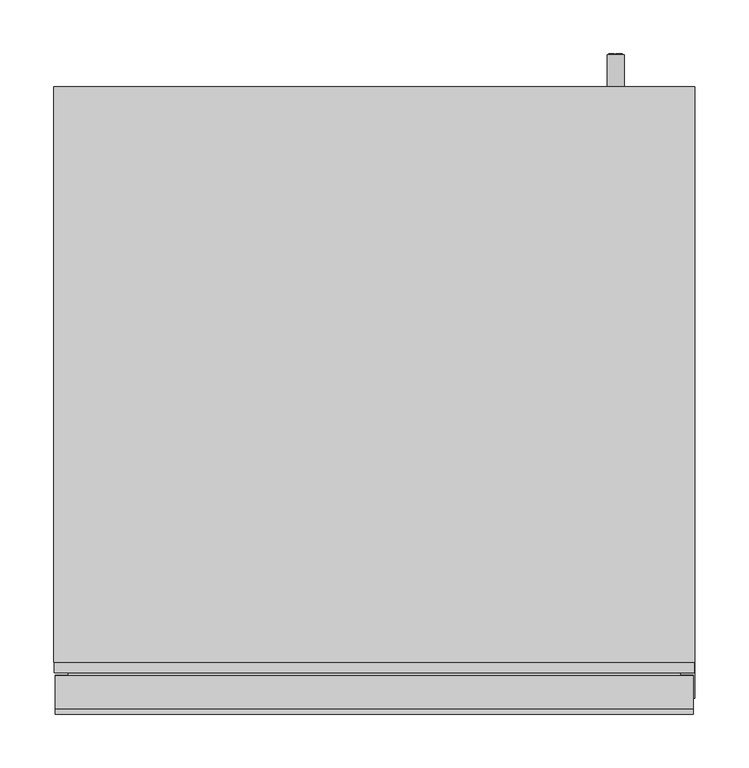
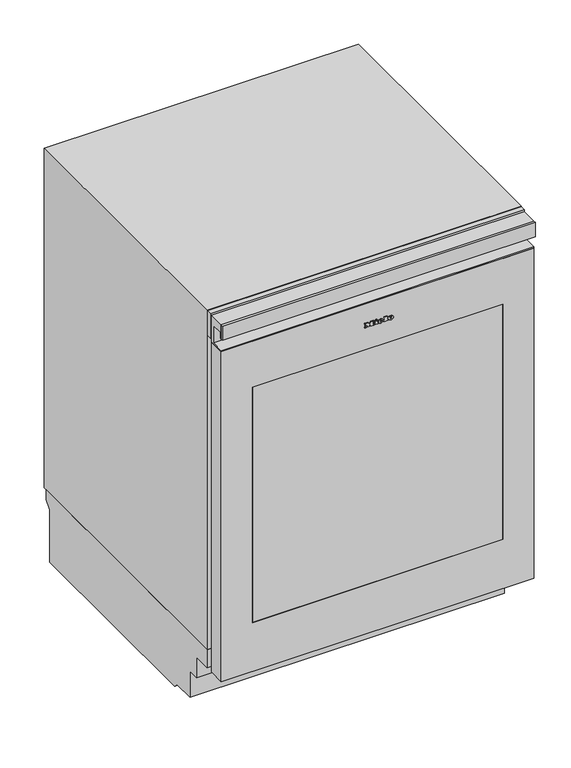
"""IFC4 building model written with IfcOpenShell, lengths in millimetres: proxy geometry, 12519500_EU1_KWTUS7055F_OBSW : 39705510_EU1_12519500_KWTUS7055F_OBSW."""

from ifc_helpers import new_model, si_unit, point, frame, frame_2d, origin, origin_with_axes, place, context, project, spatial, polyline, circle_curve, ellipse_curve, trimmed, segment, composite_curve, outline, extrude, faceted_brep, source, transform, mapped, element, save
from ifc_brep_helpers import plane_surface, cylinder_surface, revolved_surface, extruded_surface, advanced_brep


def specialty_equipment_1f316508(model_context):
    return source(origin(), model_context, "Body", "SolidModel", [
        extrude(outline(polyline([(722.339, -25.038), (722.339, -23.949), (716.318, -23.949), (716.318, -25.038), (714.806, -25.038), (714.806, -21.078), (716.318, -21.078), (716.318, -22.158), (720.1401247, -22.158), (714.806, -18.135), (720.2462223, -14.094), (716.318, -14.094), (716.318, -15.201), (714.806, -15.201), (714.806, -8.019), (716.318, -8.019), (716.318, -9.162), (722.339, -9.162), (722.339, -8.019), (723.806, -8.019), (723.806, -13.5), (720.431, -16.128), (723.806, -18.765), (723.806, -25.038), (722.339, -25.038)])), frame((0.0, -1.0, 0.0), z_axis=(0.0, 1.0, 0.0), x_axis=(0.0, 0.0, 1.0)), (0.0, 0.0, 1.0), 1.0),
        extrude(outline(polyline([(722.339, 11.484), (722.339, 12.564), (716.318, 12.564), (716.318, 11.484), (714.806, 11.484), (714.806, 18.783), (716.318, 18.783), (716.318, 17.676), (723.806, 17.676), (723.806, 11.484), (722.339, 11.484)])), frame((0.0, -1.0, 0.0), z_axis=(0.0, 1.0, 0.0), x_axis=(0.0, 0.0, 1.0)), (0.0, 0.0, 1.0), 1.0),
        extrude(outline(polyline([(723.275, -4.878), (721.817, -4.194), (723.239, -1.143), (724.697, -1.818), (723.275, -4.878)])), frame((0.0, -1.0, 0.0), z_axis=(0.0, 1.0, 0.0), x_axis=(0.0, 0.0, 1.0)), (0.0, 0.0, 1.0), 1.0),
        extrude(outline(polyline([(721.619, -7.101), (720.008, -7.101), (720.008, -6.03), (716.318, -6.03), (716.318, -7.101), (714.806, -7.101), (714.806, 0.0), (716.318, 0.0), (716.318, -1.044), (721.619, -1.044), (721.619, -7.101)])), frame((0.0, -1.0, 0.0), z_axis=(0.0, 1.0, 0.0), x_axis=(0.0, 0.0, 1.0)), (0.0, 0.0, 1.0), 1.0),
        advanced_brep(
        [(4.959, -1.0, 716.939), (4.959, -1.0, 717.848), (10.98, -1.0, 717.848), (0.504, -1.0, 717.848), (2.979, -1.0, 714.806), (10.827, -1.0, 716.939), (8.109, -1.0, 716.939), (5.967, -1.0, 715.931), (4.959, -1.0, 719.0), (4.959, -1.0, 719.981), (6.498, -1.0, 719.981), (6.498, -1.0, 719.0), (4.959, 0.0, 716.939), (5.967, 0.0, 715.931), (8.109, 0.0, 716.939), (10.827, 0.0, 716.939), (2.979, 0.0, 714.806), (0.504, 0.0, 717.848), (10.98, 0.0, 717.848), (4.959, 0.0, 717.848), (4.959, 0.0, 719.0), (6.498, 0.0, 719.0), (6.498, 0.0, 719.981), (4.959, 0.0, 719.981)],
        [
            (0, 1),
            (1, 2),
            (2, 3, ellipse_curve(frame((5.742, -1.0, 717.848), z_axis=(0.0, -1.0, 0.0), x_axis=(-1.0, 0.0, 0.0)), 5.238, 4.329)),
            (3, 4, circle_curve(frame((3.9870491, -1.0, 718.154), z_axis=(0.0, -1.0, 0.0), x_axis=(0.0, 0.0, -1.0)), 3.4964649)),
            (4, 5, circle_curve(frame((5.6371428, -1.0, 720.53), z_axis=(0.0, -1.0, 0.0), x_axis=(0.0, 0.0, -1.0)), 6.3110933)),
            (5, 6),
            (6, 7, circle_curve(frame((6.4069412, -1.0, 717.776), z_axis=(0.0, 1.0, 0.0), x_axis=(0.0, 0.0, -1.0)), 1.896727)),
            (7, 0, circle_curve(frame((5.967, -1.0, 716.939), z_axis=(0.0, 1.0, 0.0), x_axis=(0.0, 0.0, -1.0)), 1.008)),
            (8, 9),
            (9, 10, circle_curve(frame((5.7285, -1.0, 719.981), z_axis=(0.0, 1.0, 0.0), x_axis=(0.0, 0.0, -1.0)), 0.7695)),
            (10, 11),
            (11, 8),
            (12, 13, circle_curve(frame((5.967, 0.0, 716.939), z_axis=(0.0, -1.0, 0.0), x_axis=(0.0, 0.0, -1.0)), 1.008)),
            (13, 14, circle_curve(frame((6.4069412, 0.0, 717.776), z_axis=(0.0, -1.0, 0.0), x_axis=(0.0, 0.0, -1.0)), 1.896727)),
            (14, 15),
            (15, 16, circle_curve(frame((5.6371428, 0.0, 720.53), z_axis=(0.0, 1.0, 0.0), x_axis=(0.0, 0.0, -1.0)), 6.3110933)),
            (16, 17, circle_curve(frame((3.9870491, 0.0, 718.154), z_axis=(0.0, 1.0, 0.0), x_axis=(0.0, 0.0, -1.0)), 3.4964649)),
            (17, 18, ellipse_curve(frame((5.742, 0.0, 717.848), z_axis=(0.0, 1.0, 0.0), x_axis=(-1.0, 0.0, 0.0)), 5.238, 4.329)),
            (18, 19),
            (19, 12),
            (20, 21),
            (21, 22),
            (22, 23, circle_curve(frame((5.7285, 0.0, 719.981), z_axis=(0.0, -1.0, 0.0), x_axis=(0.0, 0.0, -1.0)), 0.7695)),
            (23, 20),
            (0, 12),
            (19, 1),
            (18, 2),
            (5, 15),
            (14, 6),
            (17, 3),
            (13, 7),
            (16, 4),
            (8, 20),
            (23, 9),
            (22, 10),
            (21, 11),
        ],
        [
            plane_surface(frame((4.959, -1.0, 717.848), z_axis=(0.0, -1.0, 0.0), x_axis=(0.0, 0.0, 1.0))),
            plane_surface(frame((4.959, 0.0, 717.848), z_axis=(0.0, 1.0, 0.0), x_axis=(0.0, 0.0, -1.0))),
            plane_surface(frame((4.959, -1.0, 716.939), z_axis=(1.0, 0.0, 0.0), x_axis=(0.0, 1.0, 0.0))),
            plane_surface(frame((4.959, -1.0, 717.848), z_axis=(0.0, 0.0, -1.0), x_axis=(0.0, 1.0, 0.0))),
            plane_surface(frame((10.827, -1.0, 716.939), z_axis=(0.0, 0.0, 1.0), x_axis=(0.0, 1.0, 0.0))),
            extruded_surface(trimmed(ellipse_curve(frame((5.742, 1.0, 717.848), z_axis=(0.0, -1.0, 0.0), x_axis=(-1.0, 0.0, 0.0)), 5.238, 4.329), [point((10.98, 1.0, 717.848))], [point((0.504, 1.0, 717.848))], True, "CARTESIAN"), (0.0, -1.0, 0.0), 1.0),
            revolved_surface(polyline([(6.4069412, 0.0, 715.8792729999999), (6.4069412, -1.0, 715.8792729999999)]), (6.4069412, 0.0, 717.776), (0.0, 1.0, 0.0)),
            revolved_surface(polyline([(5.967, 0.0, 715.9309999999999), (5.967, -1.0, 715.9309999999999)]), (5.967, 0.0, 716.939), (0.0, 1.0, 0.0)),
            cylinder_surface(frame((3.9870491, 0.0, 718.154), z_axis=(0.0, -1.0, 0.0), x_axis=(0.0, 0.0, -1.0)), 3.4964649),
            cylinder_surface(frame((5.6371428, 0.0, 720.53), z_axis=(0.0, -1.0, 0.0), x_axis=(0.0, 0.0, -1.0)), 6.3110933),
            plane_surface(frame((4.959, -1.0, 719.0), z_axis=(1.0, 0.0, 0.0), x_axis=(0.0, 1.0, 0.0))),
            revolved_surface(polyline([(5.7285, 0.0, 719.2115), (5.7285, -1.0, 719.2115)]), (5.7285, 0.0, 719.981), (0.0, 1.0, 0.0)),
            plane_surface(frame((6.498, -1.0, 719.981), z_axis=(-1.0, 0.0, 0.0), x_axis=(0.0, 1.0, 0.0))),
            plane_surface(frame((6.498, -1.0, 719.0), z_axis=(0.0, 0.0, 1.0), x_axis=(0.0, 1.0, 0.0))),
        ],
        [
            (0, [[1, 2, 3, 4, 5, 6, 7, 8], [9, 10, 11, 12]]),
            (1, [[13, 14, 15, 16, 17, 18, 19, 20], [21, 22, 23, 24]]),
            (2, [[-1, 25, -20, 26]]),
            (3, [[-2, -26, -19, 27]]),
            (4, [[-6, 28, -15, 29]]),
            (5, [[-3, -27, -18, 30]]),
            (6, [[-7, -29, -14, 31]]),
            (7, [[-8, -31, -13, -25]]),
            (8, [[-4, -30, -17, 32]]),
            (9, [[-5, -32, -16, -28]]),
            (10, [[-9, 33, -24, 34]]),
            (11, [[-10, -34, -23, 35]]),
            (12, [[-11, -35, -22, 36]]),
            (13, [[-12, -36, -21, -33]]),
        ],
    ),
        advanced_brep(
        [(23.742, -1.0, 716.939), (23.742, -1.0, 717.848), (29.763, -1.0, 717.848), (19.287, -1.0, 717.848), (21.762, -1.0, 714.806), (29.61, -1.0, 716.939), (26.892, -1.0, 716.939), (24.75, -1.0, 715.931), (23.742, -1.0, 719.0), (23.742, -1.0, 719.981), (25.281, -1.0, 719.981), (25.281, -1.0, 719.0), (23.742, 0.0, 716.939), (24.75, 0.0, 715.931), (26.892, 0.0, 716.939), (29.61, 0.0, 716.939), (21.762, 0.0, 714.806), (19.287, 0.0, 717.848), (29.763, 0.0, 717.848), (23.742, 0.0, 717.848), (23.742, 0.0, 719.0), (25.281, 0.0, 719.0), (25.281, 0.0, 719.981), (23.742, 0.0, 719.981)],
        [
            (0, 1),
            (1, 2),
            (2, 3, ellipse_curve(frame((24.525, -1.0, 717.848), z_axis=(0.0, -1.0, 0.0), x_axis=(-1.0, 0.0, 0.0)), 5.238, 4.329)),
            (3, 4, circle_curve(frame((22.7700491, -1.0, 718.154), z_axis=(0.0, -1.0, 0.0), x_axis=(0.0, 0.0, -1.0)), 3.4964649)),
            (4, 5, circle_curve(frame((24.4201428, -1.0, 720.53), z_axis=(0.0, -1.0, 0.0), x_axis=(0.0, 0.0, -1.0)), 6.3110933)),
            (5, 6),
            (6, 7, circle_curve(frame((25.1899412, -1.0, 717.776), z_axis=(0.0, 1.0, 0.0), x_axis=(0.0, 0.0, -1.0)), 1.896727)),
            (7, 0, circle_curve(frame((24.75, -1.0, 716.939), z_axis=(0.0, 1.0, 0.0), x_axis=(0.0, 0.0, -1.0)), 1.008)),
            (8, 9),
            (9, 10, circle_curve(frame((24.5115, -1.0, 719.981), z_axis=(0.0, 1.0, 0.0), x_axis=(0.0, 0.0, -1.0)), 0.7695)),
            (10, 11),
            (11, 8),
            (12, 13, circle_curve(frame((24.75, 0.0, 716.939), z_axis=(0.0, -1.0, 0.0), x_axis=(0.0, 0.0, -1.0)), 1.008)),
            (13, 14, circle_curve(frame((25.1899412, 0.0, 717.776), z_axis=(0.0, -1.0, 0.0), x_axis=(0.0, 0.0, -1.0)), 1.896727)),
            (14, 15),
            (15, 16, circle_curve(frame((24.4201428, 0.0, 720.53), z_axis=(0.0, 1.0, 0.0), x_axis=(0.0, 0.0, -1.0)), 6.3110933)),
            (16, 17, circle_curve(frame((22.7700491, 0.0, 718.154), z_axis=(0.0, 1.0, 0.0), x_axis=(0.0, 0.0, -1.0)), 3.4964649)),
            (17, 18, ellipse_curve(frame((24.525, 0.0, 717.848), z_axis=(0.0, 1.0, 0.0), x_axis=(-1.0, 0.0, 0.0)), 5.238, 4.329)),
            (18, 19),
            (19, 12),
            (20, 21),
            (21, 22),
            (22, 23, circle_curve(frame((24.5115, 0.0, 719.981), z_axis=(0.0, -1.0, 0.0), x_axis=(0.0, 0.0, -1.0)), 0.7695)),
            (23, 20),
            (0, 12),
            (19, 1),
            (18, 2),
            (5, 15),
            (14, 6),
            (17, 3),
            (13, 7),
            (16, 4),
            (8, 20),
            (23, 9),
            (22, 10),
            (21, 11),
        ],
        [
            plane_surface(frame((23.742, -1.0, 717.848), z_axis=(0.0, -1.0, 0.0), x_axis=(0.0, 0.0, 1.0))),
            plane_surface(frame((23.742, 0.0, 717.848), z_axis=(0.0, 1.0, 0.0), x_axis=(0.0, 0.0, -1.0))),
            plane_surface(frame((23.742, -1.0, 716.939), z_axis=(1.0, 0.0, 0.0), x_axis=(0.0, 1.0, 0.0))),
            plane_surface(frame((23.742, -1.0, 717.848), z_axis=(0.0, 0.0, -1.0), x_axis=(0.0, 1.0, 0.0))),
            plane_surface(frame((29.61, -1.0, 716.939), z_axis=(0.0, 0.0, 1.0), x_axis=(0.0, 1.0, 0.0))),
            extruded_surface(trimmed(ellipse_curve(frame((24.525, 1.0, 717.848), z_axis=(0.0, -1.0, 0.0), x_axis=(-1.0, 0.0, 0.0)), 5.238, 4.329), [point((29.763, 1.0, 717.848))], [point((19.287, 1.0, 717.848))], True, "CARTESIAN"), (0.0, -1.0, 0.0), 1.0),
            revolved_surface(polyline([(25.1899412, 0.0, 715.8792729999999), (25.1899412, -1.0, 715.8792729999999)]), (25.1899412, 0.0, 717.776), (0.0, 1.0, 0.0)),
            revolved_surface(polyline([(24.75, 0.0, 715.9309999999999), (24.75, -1.0, 715.9309999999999)]), (24.75, 0.0, 716.939), (0.0, 1.0, 0.0)),
            cylinder_surface(frame((22.7700491, 0.0, 718.154), z_axis=(0.0, -1.0, 0.0), x_axis=(0.0, 0.0, -1.0)), 3.4964649),
            cylinder_surface(frame((24.4201428, 0.0, 720.53), z_axis=(0.0, -1.0, 0.0), x_axis=(0.0, 0.0, -1.0)), 6.3110933),
            plane_surface(frame((23.742, -1.0, 719.0), z_axis=(1.0, 0.0, 0.0), x_axis=(0.0, 1.0, 0.0))),
            revolved_surface(polyline([(24.5115, 0.0, 719.2115), (24.5115, -1.0, 719.2115)]), (24.5115, 0.0, 719.981), (0.0, 1.0, 0.0)),
            plane_surface(frame((25.281, -1.0, 719.981), z_axis=(-1.0, 0.0, 0.0), x_axis=(0.0, 1.0, 0.0))),
            plane_surface(frame((25.281, -1.0, 719.0), z_axis=(0.0, 0.0, 1.0), x_axis=(0.0, 1.0, 0.0))),
        ],
        [
            (0, [[1, 2, 3, 4, 5, 6, 7, 8], [9, 10, 11, 12]]),
            (1, [[13, 14, 15, 16, 17, 18, 19, 20], [21, 22, 23, 24]]),
            (2, [[-1, 25, -20, 26]]),
            (3, [[-2, -26, -19, 27]]),
            (4, [[-6, 28, -15, 29]]),
            (5, [[-3, -27, -18, 30]]),
            (6, [[-7, -29, -14, 31]]),
            (7, [[-8, -31, -13, -25]]),
            (8, [[-4, -30, -17, 32]]),
            (9, [[-5, -32, -16, -28]]),
            (10, [[-9, 33, -24, 34]]),
            (11, [[-10, -34, -23, 35]]),
            (12, [[-11, -35, -22, 36]]),
            (13, [[-12, -36, -21, -33]]),
        ],
    ),
        extrude(outline(polyline([(699.491, -85.038), (699.491, -83.949), (693.47, -83.949), (693.47, -85.038), (691.958, -85.038), (691.958, -81.078), (693.47, -81.078), (693.47, -82.158), (697.2921247, -82.158), (691.958, -78.135), (697.3982223, -74.094), (693.47, -74.094), (693.47, -75.201), (691.958, -75.201), (691.958, -68.019), (693.47, -68.019), (693.47, -69.162), (699.491, -69.162), (699.491, -68.019), (700.958, -68.019), (700.958, -73.5), (697.583, -76.128), (700.958, -78.765), (700.958, -85.038), (699.491, -85.038)])), frame((0.0, 50.0, 0.0), z_axis=(0.0, 1.0, 0.0), x_axis=(0.0, 0.0, 1.0)), (0.0, 0.0, 1.0), 1.0),
        extrude(outline(polyline([(699.491, -48.516), (699.491, -47.436), (693.47, -47.436), (693.47, -48.516), (691.958, -48.516), (691.958, -41.217), (693.47, -41.217), (693.47, -42.324), (700.958, -42.324), (700.958, -48.516), (699.491, -48.516)])), frame((0.0, 50.0, 0.0), z_axis=(0.0, 1.0, 0.0), x_axis=(0.0, 0.0, 1.0)), (0.0, 0.0, 1.0), 1.0),
        extrude(outline(polyline([(700.427, -64.878), (698.969, -64.194), (700.391, -61.143), (701.849, -61.818), (700.427, -64.878)])), frame((0.0, 50.0, 0.0), z_axis=(0.0, 1.0, 0.0), x_axis=(0.0, 0.0, 1.0)), (0.0, 0.0, 1.0), 1.0),
        extrude(outline(polyline([(698.771, -67.101), (697.16, -67.101), (697.16, -66.03), (693.47, -66.03), (693.47, -67.101), (691.958, -67.101), (691.958, -60.0), (693.47, -60.0), (693.47, -61.044), (698.771, -61.044), (698.771, -67.101)])), frame((0.0, 50.0, 0.0), z_axis=(0.0, 1.0, 0.0), x_axis=(0.0, 0.0, 1.0)), (0.0, 0.0, 1.0), 1.0),
        advanced_brep(
        [(-55.041, 50.0, 694.091), (-55.041, 50.0, 695.0), (-49.02, 50.0, 695.0), (-59.496, 50.0, 695.0), (-57.021, 50.0, 691.958), (-49.173, 50.0, 694.091), (-51.891, 50.0, 694.091), (-54.033, 50.0, 693.083), (-55.041, 50.0, 696.152), (-55.041, 50.0, 697.133), (-53.502, 50.0, 697.133), (-53.502, 50.0, 696.152), (-55.041, 51.0, 694.091), (-54.033, 51.0, 693.083), (-51.891, 51.0, 694.091), (-49.173, 51.0, 694.091), (-57.021, 51.0, 691.958), (-59.496, 51.0, 695.0), (-49.02, 51.0, 695.0), (-55.041, 51.0, 695.0), (-55.041, 51.0, 696.152), (-53.502, 51.0, 696.152), (-53.502, 51.0, 697.133), (-55.041, 51.0, 697.133)],
        [
            (0, 1),
            (1, 2),
            (2, 3, ellipse_curve(frame((-54.258, 50.0, 695.0), z_axis=(0.0, -1.0, 0.0), x_axis=(-1.0, 0.0, 0.0)), 5.238, 4.329)),
            (3, 4, circle_curve(frame((-56.0129509, 50.0, 695.306), z_axis=(0.0, -1.0, 0.0), x_axis=(0.0, 0.0, -1.0)), 3.4964649)),
            (4, 5, circle_curve(frame((-54.3628572, 50.0, 697.682), z_axis=(0.0, -1.0, 0.0), x_axis=(0.0, 0.0, -1.0)), 6.3110933)),
            (5, 6),
            (6, 7, circle_curve(frame((-53.5930588, 50.0, 694.928), z_axis=(0.0, 1.0, 0.0), x_axis=(0.0, 0.0, -1.0)), 1.896727)),
            (7, 0, circle_curve(frame((-54.033, 50.0, 694.091), z_axis=(0.0, 1.0, 0.0), x_axis=(0.0, 0.0, -1.0)), 1.008)),
            (8, 9),
            (9, 10, circle_curve(frame((-54.2715, 50.0, 697.133), z_axis=(0.0, 1.0, 0.0), x_axis=(0.0, 0.0, -1.0)), 0.7695)),
            (10, 11),
            (11, 8),
            (12, 13, circle_curve(frame((-54.033, 51.0, 694.091), z_axis=(0.0, -1.0, 0.0), x_axis=(0.0, 0.0, -1.0)), 1.008)),
            (13, 14, circle_curve(frame((-53.5930588, 51.0, 694.928), z_axis=(0.0, -1.0, 0.0), x_axis=(0.0, 0.0, -1.0)), 1.896727)),
            (14, 15),
            (15, 16, circle_curve(frame((-54.3628572, 51.0, 697.682), z_axis=(0.0, 1.0, 0.0), x_axis=(0.0, 0.0, -1.0)), 6.3110933)),
            (16, 17, circle_curve(frame((-56.0129509, 51.0, 695.306), z_axis=(0.0, 1.0, 0.0), x_axis=(0.0, 0.0, -1.0)), 3.4964649)),
            (17, 18, ellipse_curve(frame((-54.258, 51.0, 695.0), z_axis=(0.0, 1.0, 0.0), x_axis=(-1.0, 0.0, 0.0)), 5.238, 4.329)),
            (18, 19),
            (19, 12),
            (20, 21),
            (21, 22),
            (22, 23, circle_curve(frame((-54.2715, 51.0, 697.133), z_axis=(0.0, -1.0, 0.0), x_axis=(0.0, 0.0, -1.0)), 0.7695)),
            (23, 20),
            (0, 12),
            (19, 1),
            (18, 2),
            (5, 15),
            (14, 6),
            (17, 3),
            (13, 7),
            (16, 4),
            (8, 20),
            (23, 9),
            (22, 10),
            (21, 11),
        ],
        [
            plane_surface(frame((-55.041, 50.0, 695.0), z_axis=(0.0, -1.0, 0.0), x_axis=(0.0, 0.0, 1.0))),
            plane_surface(frame((-55.041, 51.0, 695.0), z_axis=(0.0, 1.0, 0.0), x_axis=(0.0, 0.0, -1.0))),
            plane_surface(frame((-55.041, 50.0, 694.091), z_axis=(1.0, 0.0, 0.0), x_axis=(0.0, 1.0, 0.0))),
            plane_surface(frame((-55.041, 50.0, 695.0), z_axis=(0.0, 0.0, -1.0), x_axis=(0.0, 1.0, 0.0))),
            plane_surface(frame((-49.173, 50.0, 694.091), z_axis=(0.0, 0.0, 1.0), x_axis=(0.0, 1.0, 0.0))),
            extruded_surface(trimmed(ellipse_curve(frame((-54.258, 52.0, 695.0), z_axis=(0.0, -1.0, 0.0), x_axis=(-1.0, 0.0, 0.0)), 5.238, 4.329), [point((-49.02, 52.0, 695.0))], [point((-59.496, 52.0, 695.0))], True, "CARTESIAN"), (0.0, -1.0, 0.0), 1.0),
            revolved_surface(polyline([(-53.5930588, 51.0, 693.0312729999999), (-53.5930588, 50.0, 693.0312729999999)]), (-53.5930588, 51.0, 694.928), (0.0, 1.0, 0.0)),
            revolved_surface(polyline([(-54.033, 51.0, 693.083), (-54.033, 50.0, 693.083)]), (-54.033, 51.0, 694.091), (0.0, 1.0, 0.0)),
            cylinder_surface(frame((-56.0129509, 51.0, 695.306), z_axis=(0.0, -1.0, 0.0), x_axis=(0.0, 0.0, -1.0)), 3.4964649),
            cylinder_surface(frame((-54.3628572, 51.0, 697.682), z_axis=(0.0, -1.0, 0.0), x_axis=(0.0, 0.0, -1.0)), 6.3110933),
            plane_surface(frame((-55.041, 50.0, 696.152), z_axis=(1.0, 0.0, 0.0), x_axis=(0.0, 1.0, 0.0))),
            revolved_surface(polyline([(-54.2715, 51.0, 696.3635), (-54.2715, 50.0, 696.3635)]), (-54.2715, 51.0, 697.133), (0.0, 1.0, 0.0)),
            plane_surface(frame((-53.502, 50.0, 697.133), z_axis=(-1.0, 0.0, 0.0), x_axis=(0.0, 1.0, 0.0))),
            plane_surface(frame((-53.502, 50.0, 696.152), z_axis=(0.0, 0.0, 1.0), x_axis=(0.0, 1.0, 0.0))),
        ],
        [
            (0, [[1, 2, 3, 4, 5, 6, 7, 8], [9, 10, 11, 12]]),
            (1, [[13, 14, 15, 16, 17, 18, 19, 20], [21, 22, 23, 24]]),
            (2, [[-1, 25, -20, 26]]),
            (3, [[-2, -26, -19, 27]]),
            (4, [[-6, 28, -15, 29]]),
            (5, [[-3, -27, -18, 30]]),
            (6, [[-7, -29, -14, 31]]),
            (7, [[-8, -31, -13, -25]]),
            (8, [[-4, -30, -17, 32]]),
            (9, [[-5, -32, -16, -28]]),
            (10, [[-9, 33, -24, 34]]),
            (11, [[-10, -34, -23, 35]]),
            (12, [[-11, -35, -22, 36]]),
            (13, [[-12, -36, -21, -33]]),
        ],
    ),
        advanced_brep(
        [(-36.258, 50.0, 694.091), (-36.258, 50.0, 695.0), (-30.237, 50.0, 695.0), (-40.713, 50.0, 695.0), (-38.238, 50.0, 691.958), (-30.39, 50.0, 694.091), (-33.108, 50.0, 694.091), (-35.25, 50.0, 693.083), (-36.258, 50.0, 696.152), (-36.258, 50.0, 697.133), (-34.719, 50.0, 697.133), (-34.719, 50.0, 696.152), (-36.258, 51.0, 694.091), (-35.25, 51.0, 693.083), (-33.108, 51.0, 694.091), (-30.39, 51.0, 694.091), (-38.238, 51.0, 691.958), (-40.713, 51.0, 695.0), (-30.237, 51.0, 695.0), (-36.258, 51.0, 695.0), (-36.258, 51.0, 696.152), (-34.719, 51.0, 696.152), (-34.719, 51.0, 697.133), (-36.258, 51.0, 697.133)],
        [
            (0, 1),
            (1, 2),
            (2, 3, ellipse_curve(frame((-35.475, 50.0, 695.0), z_axis=(0.0, -1.0, 0.0), x_axis=(-1.0, 0.0, 0.0)), 5.238, 4.329)),
            (3, 4, circle_curve(frame((-37.2299509, 50.0, 695.306), z_axis=(0.0, -1.0, 0.0), x_axis=(0.0, 0.0, -1.0)), 3.4964649)),
            (4, 5, circle_curve(frame((-35.5798572, 50.0, 697.682), z_axis=(0.0, -1.0, 0.0), x_axis=(0.0, 0.0, -1.0)), 6.3110933)),
            (5, 6),
            (6, 7, circle_curve(frame((-34.8100588, 50.0, 694.928), z_axis=(0.0, 1.0, 0.0), x_axis=(0.0, 0.0, -1.0)), 1.896727)),
            (7, 0, circle_curve(frame((-35.25, 50.0, 694.091), z_axis=(0.0, 1.0, 0.0), x_axis=(0.0, 0.0, -1.0)), 1.008)),
            (8, 9),
            (9, 10, circle_curve(frame((-35.4885, 50.0, 697.133), z_axis=(0.0, 1.0, 0.0), x_axis=(0.0, 0.0, -1.0)), 0.7695)),
            (10, 11),
            (11, 8),
            (12, 13, circle_curve(frame((-35.25, 51.0, 694.091), z_axis=(0.0, -1.0, 0.0), x_axis=(0.0, 0.0, -1.0)), 1.008)),
            (13, 14, circle_curve(frame((-34.8100588, 51.0, 694.928), z_axis=(0.0, -1.0, 0.0), x_axis=(0.0, 0.0, -1.0)), 1.896727)),
            (14, 15),
            (15, 16, circle_curve(frame((-35.5798572, 51.0, 697.682), z_axis=(0.0, 1.0, 0.0), x_axis=(0.0, 0.0, -1.0)), 6.3110933)),
            (16, 17, circle_curve(frame((-37.2299509, 51.0, 695.306), z_axis=(0.0, 1.0, 0.0), x_axis=(0.0, 0.0, -1.0)), 3.4964649)),
            (17, 18, ellipse_curve(frame((-35.475, 51.0, 695.0), z_axis=(0.0, 1.0, 0.0), x_axis=(-1.0, 0.0, 0.0)), 5.238, 4.329)),
            (18, 19),
            (19, 12),
            (20, 21),
            (21, 22),
            (22, 23, circle_curve(frame((-35.4885, 51.0, 697.133), z_axis=(0.0, -1.0, 0.0), x_axis=(0.0, 0.0, -1.0)), 0.7695)),
            (23, 20),
            (0, 12),
            (19, 1),
            (18, 2),
            (5, 15),
            (14, 6),
            (17, 3),
            (13, 7),
            (16, 4),
            (8, 20),
            (23, 9),
            (22, 10),
            (21, 11),
        ],
        [
            plane_surface(frame((-36.258, 50.0, 695.0), z_axis=(0.0, -1.0, 0.0), x_axis=(0.0, 0.0, 1.0))),
            plane_surface(frame((-36.258, 51.0, 695.0), z_axis=(0.0, 1.0, 0.0), x_axis=(0.0, 0.0, -1.0))),
            plane_surface(frame((-36.258, 50.0, 694.091), z_axis=(1.0, 0.0, 0.0), x_axis=(0.0, 1.0, 0.0))),
            plane_surface(frame((-36.258, 50.0, 695.0), z_axis=(0.0, 0.0, -1.0), x_axis=(0.0, 1.0, 0.0))),
            plane_surface(frame((-30.39, 50.0, 694.091), z_axis=(0.0, 0.0, 1.0), x_axis=(0.0, 1.0, 0.0))),
            extruded_surface(trimmed(ellipse_curve(frame((-35.475, 52.0, 695.0), z_axis=(0.0, -1.0, 0.0), x_axis=(-1.0, 0.0, 0.0)), 5.238, 4.329), [point((-30.237, 52.0, 695.0))], [point((-40.713, 52.0, 695.0))], True, "CARTESIAN"), (0.0, -1.0, 0.0), 1.0),
            revolved_surface(polyline([(-34.8100588, 51.0, 693.0312729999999), (-34.8100588, 50.0, 693.0312729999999)]), (-34.8100588, 51.0, 694.928), (0.0, 1.0, 0.0)),
            revolved_surface(polyline([(-35.25, 51.0, 693.083), (-35.25, 50.0, 693.083)]), (-35.25, 51.0, 694.091), (0.0, 1.0, 0.0)),
            cylinder_surface(frame((-37.2299509, 51.0, 695.306), z_axis=(0.0, -1.0, 0.0), x_axis=(0.0, 0.0, -1.0)), 3.4964649),
            cylinder_surface(frame((-35.5798572, 51.0, 697.682), z_axis=(0.0, -1.0, 0.0), x_axis=(0.0, 0.0, -1.0)), 6.3110933),
            plane_surface(frame((-36.258, 50.0, 696.152), z_axis=(1.0, 0.0, 0.0), x_axis=(0.0, 1.0, 0.0))),
            revolved_surface(polyline([(-35.4885, 51.0, 696.3635), (-35.4885, 50.0, 696.3635)]), (-35.4885, 51.0, 697.133), (0.0, 1.0, 0.0)),
            plane_surface(frame((-34.719, 50.0, 697.133), z_axis=(-1.0, 0.0, 0.0), x_axis=(0.0, 1.0, 0.0))),
            plane_surface(frame((-34.719, 50.0, 696.152), z_axis=(0.0, 0.0, 1.0), x_axis=(0.0, 1.0, 0.0))),
        ],
        [
            (0, [[1, 2, 3, 4, 5, 6, 7, 8], [9, 10, 11, 12]]),
            (1, [[13, 14, 15, 16, 17, 18, 19, 20], [21, 22, 23, 24]]),
            (2, [[-1, 25, -20, 26]]),
            (3, [[-2, -26, -19, 27]]),
            (4, [[-6, 28, -15, 29]]),
            (5, [[-3, -27, -18, 30]]),
            (6, [[-7, -29, -14, 31]]),
            (7, [[-8, -31, -13, -25]]),
            (8, [[-4, -30, -17, 32]]),
            (9, [[-5, -32, -16, -28]]),
            (10, [[-9, 33, -24, 34]]),
            (11, [[-10, -34, -23, 35]]),
            (12, [[-11, -35, -22, 36]]),
            (13, [[-12, -36, -21, -33]]),
        ],
    ),
        extrude(outline(polyline([(577.8, -157.5), (582.5052612, -157.5), (586.5052612, -161.5), (586.5052612, -168.5), (582.5052612, -172.5), (577.8, -172.5), (577.8, -157.5)])), frame((0.0, 54.5000244, 0.0), z_axis=(0.0, 1.0, 0.0), x_axis=(0.0, 0.0, 1.0)), (0.0, 0.0, 1.0), 433.111792),
        extrude(outline(polyline([(577.8, -102.5), (582.5052612, -102.5), (586.5052612, -106.5), (586.5052612, -113.5), (582.5052612, -117.5), (577.8, -117.5), (577.8, -102.5)])), frame((0.0, 54.5000244, 0.0), z_axis=(0.0, 1.0, 0.0), x_axis=(0.0, 0.0, 1.0)), (0.0, 0.0, 1.0), 433.111792),
        extrude(outline(polyline([(577.8, 157.5), (577.8, 172.5), (582.5052612, 172.5), (586.5052612, 168.5), (586.5052612, 161.5), (582.5052612, 157.5), (577.8, 157.5)])), frame((0.0, 54.5000244, 0.0), z_axis=(0.0, 1.0, 0.0), x_axis=(0.0, 0.0, 1.0)), (0.0, 0.0, 1.0), 433.111792),
        extrude(outline(polyline([(577.8, 102.5), (577.8, 117.5), (582.5052612, 117.5), (586.5052612, 113.5), (586.5052612, 106.5), (582.5052612, 102.5), (577.8, 102.5)])), frame((0.0, 54.5000244, 0.0), z_axis=(0.0, 1.0, 0.0), x_axis=(0.0, 0.0, 1.0)), (0.0, 0.0, 1.0), 433.111792),
        extrude(outline(polyline([(577.8, -47.5), (582.5052612, -47.5), (586.5052612, -51.5), (586.5052612, -58.5), (582.5052612, -62.5), (577.8, -62.5), (577.8, -47.5)])), frame((0.0, 54.5000244, 0.0), z_axis=(0.0, 1.0, 0.0), x_axis=(0.0, 0.0, 1.0)), (0.0, 0.0, 1.0), 433.111792),
        extrude(outline(polyline([(577.8, 47.5), (577.8, 62.5), (582.5052612, 62.5), (586.5052612, 58.5), (586.5052612, 51.5), (582.5052612, 47.5), (577.8, 47.5)])), frame((0.0, 54.5000244, 0.0), z_axis=(0.0, 1.0, 0.0), x_axis=(0.0, 0.0, 1.0)), (0.0, 0.0, 1.0), 433.111792),
        extrude(outline(polyline([(577.8, 7.5), (582.5052612, 7.5), (586.5052612, 3.5), (586.5052612, -3.5), (582.5052612, -7.5), (577.8, -7.5), (577.8, 7.5)])), frame((0.0, 54.5000244, 0.0), z_axis=(0.0, 1.0, 0.0), x_axis=(0.0, 0.0, 1.0)), (0.0, 0.0, 1.0), 433.111792),
        extrude(outline(polyline([(238.5, 51.0000244), (-238.5, 51.0000244), (-238.5, 54.5000244), (238.5, 54.5000244), (238.5, 51.0000244)])), frame((0.0, 0.0, 276.0), z_axis=(0.0, 0.0, 1.0), x_axis=(1.0, 0.0, 0.0)), (0.0, 0.0, 1.0), 27.5),
        extrude(outline(polyline([(238.5, 51.0000244), (-238.5, 51.0000244), (-238.5, 54.5000244), (238.5, 54.5000244), (238.5, 51.0000244)])), frame((0.0, 0.0, 573.0), z_axis=(0.0, 0.0, 1.0), x_axis=(1.0, 0.0, 0.0)), (0.0, 0.0, 1.0), 27.5),
        faceted_brep([(250.0, 51.0000244, 719.0), (-250.0, 51.0000244, 719.0), (-250.0, 51.0000244, 665.5838574), (250.0, 51.0000244, 665.5838574), (24.4663125, 51.0000244, 676.4573822), (-24.4663125, 51.0000244, 676.4573822), (-24.4663125, 51.0000244, 712.8698491), (24.4663125, 51.0000244, 712.8698491), (250.0, 487.6118164, 719.0), (250.0, 487.6118164, 665.5838574), (-250.0, 487.6118164, 665.5838574), (-250.0, 487.6118164, 719.0), (24.4663125, 80.5000244, 676.4573822), (24.4663125, 80.5000244, 712.8698491), (-24.4663125, 80.5000244, 712.8698491), (-24.4663125, 80.5000244, 676.4573822)], [[[0, 1, 2, 3], [4, 5, 6, 7]], [[8, 9, 10, 11]], [[1, 0, 8, 11]], [[2, 1, 11, 10]], [[3, 2, 10, 9]], [[0, 3, 9, 8]], [[12, 13, 14, 15]], [[12, 15, 5, 4]], [[15, 14, 6, 5]], [[14, 13, 7, 6]], [[13, 12, 4, 7]]]),
        extrude(outline(polyline([(238.5, 487.6118164), (-238.5, 487.6118164), (-238.5, 491.1118408), (238.5, 491.1118408), (238.5, 487.6118164)])), frame((0.0, 0.0, 573.0), z_axis=(0.0, 0.0, 1.0), x_axis=(1.0, 0.0, 0.0)), (0.0, 0.0, 1.0), 27.5),
        extrude(outline(polyline([(238.5, 487.6118164), (-238.5, 487.6118164), (-238.5, 491.1118408), (238.5, 491.1118408), (238.5, 487.6118164)])), frame((0.0, 0.0, 276.0), z_axis=(0.0, 0.0, 1.0), x_axis=(1.0, 0.0, 0.0)), (0.0, 0.0, 1.0), 27.5),
        extrude(outline(polyline([(-197.5, 210.0000244), (-215.5, 210.0000244), (-215.5, 330.0000244), (-197.5, 330.0000244), (-197.5, 210.0000244)])), frame((0.0, 0.0, 290.9498338), z_axis=(0.0, 0.0, 1.0), x_axis=(1.0, 0.0, 0.0)), (0.0, 0.0, 1.0), 228.0501662),
        extrude(outline(polyline([(-115.0415667, 56.5000244), (-215.5, 56.5000244), (-215.5, 483.5000244), (-115.0415667, 483.5000244), (-115.0415667, 56.5000244)])), frame((0.0, 0.0, 519.0), z_axis=(0.0, 0.0, 1.0), x_axis=(1.0, 0.0, 0.0)), (0.0, 0.0, 1.0), 20.0),
        extrude(outline(polyline([(238.5, 487.6118164), (-238.5, 487.6118164), (-238.5, 491.1118408), (238.5, 491.1118408), (238.5, 487.6118164)])), frame((0.0, 0.0, 574.0), z_axis=(0.0, 0.0, 1.0), x_axis=(1.0, 0.0, 0.0)), (0.0, 0.0, 1.0), 27.5),
        extrude(outline(polyline([(130.5000244, 149.7947388), (115.5000244, 149.7947388), (115.5000244, 154.5), (119.5000244, 158.5), (126.5000244, 158.5), (130.5000244, 154.5), (130.5000244, 149.7947388)])), frame((-216.555896, 0.0, 0.0), z_axis=(1.0, 0.0, 0.0), x_axis=(0.0, 1.0, 0.0)), (0.0, 0.0, 1.0), 433.111792),
        extrude(outline(polyline([(192.5000244, 149.7947388), (177.5000244, 149.7947388), (177.5000244, 154.5), (181.5000244, 158.5), (188.5000244, 158.5), (192.5000244, 154.5), (192.5000244, 149.7947388)])), frame((-216.555896, 0.0, 0.0), z_axis=(1.0, 0.0, 0.0), x_axis=(0.0, 1.0, 0.0)), (0.0, 0.0, 1.0), 433.111792),
        extrude(outline(polyline([(254.5000244, 149.7947388), (239.5000244, 149.7947388), (239.5000244, 154.5), (243.5000244, 158.5), (250.5000244, 158.5), (254.5000244, 154.5), (254.5000244, 149.7947388)])), frame((-216.555896, 0.0, 0.0), z_axis=(1.0, 0.0, 0.0), x_axis=(0.0, 1.0, 0.0)), (0.0, 0.0, 1.0), 433.111792),
        extrude(outline(polyline([(301.5000244, 149.7947388), (301.5000244, 154.5), (305.5000244, 158.5), (312.5000244, 158.5), (316.5000244, 154.5), (316.5000244, 149.7947388), (301.5000244, 149.7947388)])), frame((-216.555896, 0.0, 0.0), z_axis=(1.0, 0.0, 0.0), x_axis=(0.0, 1.0, 0.0)), (0.0, 0.0, 1.0), 433.111792),
        extrude(outline(polyline([(24.4663125, 51.0000244), (-24.4663125, 51.0000244), (-24.4663125, 80.5000244), (24.4663125, 80.5000244), (24.4663125, 51.0000244)])), frame((0.0, 0.0, 676.4573822), z_axis=(0.0, 0.0, 1.0), x_axis=(1.0, 0.0, 0.0)), (0.0, 0.0, 1.0), 36.4124668),
        extrude(outline(polyline([(238.5, 54.5000244), (219.7422474, 54.5000244), (219.7422474, 487.6118164), (238.5, 487.6118164), (238.5, 54.5000244)])), frame((0.0, 0.0, 573.0), z_axis=(0.0, 0.0, 1.0), x_axis=(1.0, 0.0, 0.0)), (0.0, 0.0, 1.0), 27.5),
        extrude(outline(polyline([(-219.7422474, 54.5000244), (-238.5, 54.5000244), (-238.5, 487.6118164), (-219.7422474, 487.6118164), (-219.7422474, 54.5000244)])), frame((0.0, 0.0, 573.0), z_axis=(0.0, 0.0, 1.0), x_axis=(1.0, 0.0, 0.0)), (0.0, 0.0, 1.0), 27.5),
        extrude(outline(polyline([(54.5000244, 232.4639133), (54.5000244, 276.0), (483.5000244, 276.0), (483.5000244, 270.7277703), (257.9509548, 270.7277703), (257.9509548, 232.4639133), (54.5000244, 232.4639133)])), frame((96.0500031, 0.0, 0.0), z_axis=(1.0, 0.0, 0.0), x_axis=(0.0, 1.0, 0.0)), (0.0, 0.0, 1.0), 115.0),
        extrude(outline(polyline([(483.5000244, 339.1000061), (483.5000244, 290.9498338), (54.5000244, 290.9498338), (54.5000244, 296.2848052), (270.5000244, 296.2848052), (270.5000244, 339.1000061), (483.5000244, 339.1000061)])), frame((96.0500031, 0.0, 0.0), z_axis=(1.0, 0.0, 0.0), x_axis=(0.0, 1.0, 0.0)), (0.0, 0.0, 1.0), 115.0),
        extrude(outline(polyline([(238.5, 487.6118164), (238.5, 54.5000244), (-238.5, 54.5000244), (-238.5, 487.6118164), (238.5, 487.6118164)])), frame((0.0, 0.0, 276.0), z_axis=(0.0, 0.0, 1.0), x_axis=(1.0, 0.0, 0.0)), (0.0, 0.0, 1.0), 14.9498338),
        extrude(outline(polyline([(298.0, 34.0937347), (-298.0, 34.0937347), (-298.0, 44.0), (298.0, 44.0), (298.0, 34.0937347)])), frame((0.0, 0.0, 768.7051238), z_axis=(0.0, 0.0, 1.0), x_axis=(1.0, 0.0, 0.0)), (0.0, 0.0, 1.0), 48.9938508),
        faceted_brep([(-298.5, 573.5, 137.8999939), (-298.5, 573.5, 117.6051112), (-298.5, 561.0, 105.1051112), (-298.5, 561.0, 0.0), (-298.5, 150.9682763, 0.0), (-298.5, 142.6506717, 8.3176046), (-298.5, 100.0, 8.3176046), (-298.5, 100.0, 60.7725754), (-298.5, 79.0216446, 60.7725754), (-298.5, 79.0216446, 101.8184894), (-298.5, 44.0, 101.8184894), (-298.5, 44.0, 137.8999939), (298.5, 573.5, 137.8999939), (298.5, 44.0, 137.8999939), (298.5, 44.0, 101.8184894), (298.5, 79.0216446, 101.8184894), (298.5, 79.0216446, 60.7725754), (298.5, 100.0, 60.7725754), (298.5, 100.0, 8.3176046), (298.5, 142.6506717, 8.3176046), (298.5, 150.9682763, 0.0), (298.5, 561.0, 0.0), (298.5, 561.0, 105.1051112), (298.5, 573.5, 117.6051112), (296.7000122, 487.2596389, 0.0), (256.5957336, 487.2596389, 0.0), (256.5957336, 422.5975098, 0.0), (296.7000122, 422.5975098, 0.0), (-296.7000122, 487.2596389, 0.0), (-296.7000122, 422.5975098, 0.0), (-256.5957336, 422.5975098, 0.0), (-256.5957336, 487.2596389, 0.0), (296.7000122, 487.2596389, 8.7371401), (296.7000122, 422.5975098, 8.7371401), (256.5957336, 422.5975098, 8.7371401), (256.5957336, 487.2596389, 8.7371401), (-296.7000122, 487.2596389, 8.7371401), (-256.5957336, 487.2596389, 8.7371401), (-256.5957336, 422.5975098, 8.7371401), (-296.7000122, 422.5975098, 8.7371401)], [[[0, 1, 2, 3, 4, 5, 6, 7, 8, 9, 10, 11]], [[12, 13, 14, 15, 16, 17, 18, 19, 20, 21, 22, 23]], [[0, 11, 13, 12]], [[11, 10, 14, 13]], [[10, 9, 15, 14]], [[9, 8, 16, 15]], [[8, 7, 17, 16]], [[7, 6, 18, 17]], [[6, 5, 19, 18]], [[5, 4, 20, 19]], [[4, 3, 21, 20], [24, 25, 26, 27], [28, 29, 30, 31]], [[3, 2, 22, 21]], [[2, 1, 23, 22]], [[1, 0, 12, 23]], [[32, 33, 34, 35]], [[36, 37, 38, 39]], [[32, 35, 25, 24]], [[35, 34, 26, 25]], [[34, 33, 27, 26]], [[33, 32, 24, 27]], [[36, 39, 29, 28]], [[39, 38, 30, 29]], [[38, 37, 31, 30]], [[37, 36, 28, 31]]]),
        faceted_brep([(298.5, 44.0, 819.0), (298.5, 44.0, 137.8999939), (298.5, 579.6, 137.8999939), (298.5, 579.6, 819.0), (-298.5, 44.0, 819.0), (-298.5, 579.6, 819.0), (-298.5, 579.6, 137.8999939), (-298.5, 44.0, 137.8999939), (250.0, 44.0, 719.0), (250.0, 44.0, 150.0), (-250.0, 44.0, 150.0), (-250.0, 44.0, 719.0), (250.0, 534.2638012, 150.0), (250.0, 534.2638012, 719.0), (-250.0, 534.2638012, 719.0), (-250.0, 534.2638012, 150.0)], [[[0, 1, 2, 3]], [[4, 5, 6, 7]], [[1, 0, 4, 7], [8, 9, 10, 11]], [[2, 1, 7, 6]], [[3, 2, 6, 5]], [[0, 3, 5, 4]], [[12, 13, 14, 15]], [[13, 12, 9, 8]], [[14, 13, 8, 11]], [[15, 14, 11, 10]], [[12, 15, 10, 9]]]),
        extrude(outline(polyline([(250.0, 534.2638012), (250.0, 362.7), (-250.0, 362.7), (-250.0, 534.2638012), (250.0, 534.2638012)])), frame((0.0, 0.0, 150.0), z_axis=(0.0, 0.0, 1.0), x_axis=(1.0, 0.0, 0.0)), (0.0, 0.0, 1.0), 71.8999939),
        extrude(outline(composite_curve([segment(trimmed(circle_curve(frame_2d((-270.8532135, 135.87603)), 15.7049948), [point((-286.5582083, 135.87603))], [point((-255.1482187, 135.87603))], False, "CARTESIAN"), True, "CONTINUOUS"), segment(trimmed(circle_curve(frame_2d((-270.8532135, 135.87603)), 15.7049948), [point((-255.1482187, 135.87603))], [point((-286.5582083, 135.87603))], False, "CARTESIAN"), True, "CONTINUOUS")], self_intersect=False)), origin_with_axes(), (0.0, 0.0, 1.0), 8.3176046),
        extrude(outline(composite_curve([segment(trimmed(circle_curve(frame_2d((270.8532135, 135.87603)), 15.7049948), [point((286.5582083, 135.87603))], [point((255.1482187, 135.87603))], False, "CARTESIAN"), True, "CONTINUOUS"), segment(trimmed(circle_curve(frame_2d((270.8532135, 135.87603)), 15.7049948), [point((255.1482187, 135.87603))], [point((286.5582083, 135.87603))], False, "CARTESIAN"), True, "CONTINUOUS")], self_intersect=False)), origin_with_axes(), (0.0, 0.0, 1.0), 8.3176046),
        extrude(outline(composite_curve([segment(trimmed(circle_curve(frame_2d((-275.822369, 461.1385329)), 16.0), [point((-291.822369, 461.1385329))], [point((-259.822369, 461.1385329))], False, "CARTESIAN"), True, "CONTINUOUS"), segment(trimmed(circle_curve(frame_2d((-275.822369, 461.1385329)), 16.0), [point((-259.822369, 461.1385329))], [point((-291.822369, 461.1385329))], False, "CARTESIAN"), True, "CONTINUOUS")], self_intersect=False)), origin_with_axes(), (0.0, 0.0, 1.0), 8.3176046),
        extrude(outline(composite_curve([segment(trimmed(circle_curve(frame_2d((275.822369, 461.1385329)), 16.0), [point((259.822369, 461.1385329))], [point((291.822369, 461.1385329))], False, "CARTESIAN"), True, "CONTINUOUS"), segment(trimmed(circle_curve(frame_2d((275.822369, 461.1385329)), 16.0), [point((291.822369, 461.1385329))], [point((259.822369, 461.1385329))], False, "CARTESIAN"), True, "CONTINUOUS")], self_intersect=False)), origin_with_axes(), (0.0, 0.0, 1.0), 8.3176046),
        extrude(outline(composite_curve([segment(trimmed(circle_curve(frame_2d((144.2460785, 224.8152695)), 8.0), [point((144.2460785, 216.8152695))], [point((144.2460785, 232.8152695))], False, "CARTESIAN"), True, "CONTINUOUS"), segment(trimmed(circle_curve(frame_2d((144.2460785, 224.8152695)), 8.0), [point((144.2460785, 232.8152695))], [point((144.2460785, 216.8152695))], False, "CARTESIAN"), True, "CONTINUOUS")], self_intersect=False)), frame((0.0, 579.6, 0.0), z_axis=(0.0, 1.0, 0.0), x_axis=(0.0, 0.0, 1.0)), (0.0, 0.0, 1.0), 30.0),
        extrude(outline(polyline([(140.2460785, 230.7170777), (148.2825833, 230.7170777), (148.2825833, 224.9408399), (147.2780202, 224.9408399), (147.2780202, 229.7125146), (144.8921828, 229.7125146), (144.8921828, 225.1919806), (143.8876197, 225.1919806), (143.8876197, 229.7125146), (141.2506416, 229.7125146), (141.2506416, 224.8152695), (140.2460785, 224.8152695), (140.2460785, 230.7170777)])), frame((0.0, 609.6, 0.0), z_axis=(0.0, 1.0, 0.0), x_axis=(0.0, 0.0, 1.0)), (0.0, 0.0, 1.0), 1.0),
        extrude(outline(polyline([(140.2460785, 223.3084248), (148.2825833, 223.3084248), (148.2825833, 222.3038617), (141.2506416, 222.3038617), (141.2506416, 218.2856093), (140.2460785, 218.2856093), (140.2460785, 223.3084248)])), frame((0.0, 609.6, 0.0), z_axis=(0.0, 1.0, 0.0), x_axis=(0.0, 0.0, 1.0)), (0.0, 0.0, 1.0), 1.0),
        faceted_brep([(297.0, 0.0, 762.0), (-297.0, 0.0, 762.0), (-297.0, 0.0, 100.0), (297.0, 0.0, 100.0), (-238.0, 0.0, 670.0), (238.0, 0.0, 670.0), (238.0, 0.0, 198.0), (-238.0, 0.0, 198.0), (297.0, 32.0, 100.0), (-297.0, 32.0, 100.0), (-297.0, 32.0, 762.0), (297.0, 32.0, 762.0), (297.0, 32.0, 145.5520399), (190.2289267, 32.0, 145.5520399), (190.2289267, 32.0, 100.9715583), (297.0, 32.0, 100.9715583), (238.0, 32.0, 670.0), (-238.0, 32.0, 670.0), (-238.0, 32.0, 198.0), (238.0, 32.0, 198.0), (297.0, 10.6130013, 100.9715583), (297.0, 10.6130013, 145.5520399), (190.2289267, 10.6130013, 145.5520399), (190.2289267, 10.6130013, 100.9715583)], [[[0, 1, 2, 3], [4, 5, 6, 7]], [[8, 9, 10, 11, 12, 13, 14, 15], [16, 17, 18, 19]], [[1, 0, 11, 10]], [[2, 1, 10, 9]], [[3, 2, 9, 8]], [[0, 3, 8, 15, 20, 21, 12, 11]], [[16, 5, 4, 17]], [[17, 4, 7, 18]], [[18, 7, 6, 19]], [[5, 16, 19, 6]], [[21, 22, 13, 12]], [[14, 23, 20, 15]], [[23, 22, 21, 20]], [[22, 23, 14, 13]]]),
        extrude(outline(polyline([(764.5, 285.0), (764.5, -285.0), (148.5030441, -285.0), (148.5030441, 285.0), (764.5, 285.0)]), holes=[polyline([(670.0, -238.0), (670.0, 238.0), (198.0, 238.0), (198.0, -238.0), (670.0, -238.0)])]), frame((0.0, 32.0, 0.0), z_axis=(0.0, 1.0, 0.0), x_axis=(0.0, 0.0, 1.0)), (0.0, 0.0, 1.0), 12.0),
        extrude(outline(polyline([(297.0, 0.0), (297.0, -4.3999998), (-297.0, -4.3999998), (-297.0, 0.0), (297.0, 0.0)])), frame((0.0, 0.0, 787.8718872), z_axis=(0.0, 0.0, 1.0), x_axis=(1.0, 0.0, 0.0)), (0.0, 0.0, 1.0), 28.4282238),
        extrude(outline(polyline([(31.449995, 816.3006898), (31.449995, 762.0), (0.0, 762.0), (0.0, 764.3706666), (25.2610212, 764.3706666), (25.2610212, 799.0085449), (3.0130013, 799.0085449), (3.0130013, 787.161485), (0.0, 787.161485), (0.0, 816.3006898), (31.449995, 816.3006898)])), frame((-297.0, 0.0, 0.0), z_axis=(1.0, 0.0, 0.0), x_axis=(0.0, 1.0, 0.0)), (0.0, 0.0, 1.0), 594.0),
        extrude(outline(polyline([(238.0, 0.0), (-238.0, 0.0), (-238.0, 32.0), (238.0, 32.0), (238.0, 0.0)])), frame((0.0, 0.0, 197.9069346), z_axis=(0.0, 0.0, 1.0), x_axis=(1.0, 0.0, 0.0)), (0.0, 0.0, 1.0), 472.0930654),
        extrude(outline(polyline([(298.5, 10.6130013), (190.2289267, 10.6130013), (190.2289267, 44.0), (298.5, 44.0), (298.5, 10.6130013)])), frame((0.0, 0.0, 100.0), z_axis=(0.0, 0.0, 1.0), x_axis=(1.0, 0.0, 0.0)), (0.0, 0.0, 1.0), 41.0),
    ])


if __name__ == "__main__":
    model = new_model("IFC4")
    model_context = context("Model", 3, world=origin())
    ifc_project = project(units=[si_unit("LENGTHUNIT", "METRE", prefix="MILLI")], contexts=[model_context])
    site = spatial("IfcSite", under=ifc_project)
    building = spatial("IfcBuilding", under=site)
    placement = place(None, origin())
    specialty_equipment_shape = specialty_equipment_1f316508(model_context)
    element("IfcBuildingElementProxy", 1, Name="12519500_EU1_KWTUS7055F_OBSW : 39705510_EU1_12519500_KWTUS7055F_OBSW", ObjectType="12519500_EU1_KWTUS7055F_OBSW : 39705510_EU1_12519500_KWTUS7055F_OBSW", at=placement, inside=building, context=model_context, shape_type="MappedRepresentation", body=[
        mapped(specialty_equipment_shape, transform((0.0, 0.0, 0.0), x_axis=(1.0, 0.0, 0.0), y_axis=(0.0, 1.0, 0.0), z_axis=(0.0, 0.0, 1.0))),
    ])
    save(model, "model.ifc")
